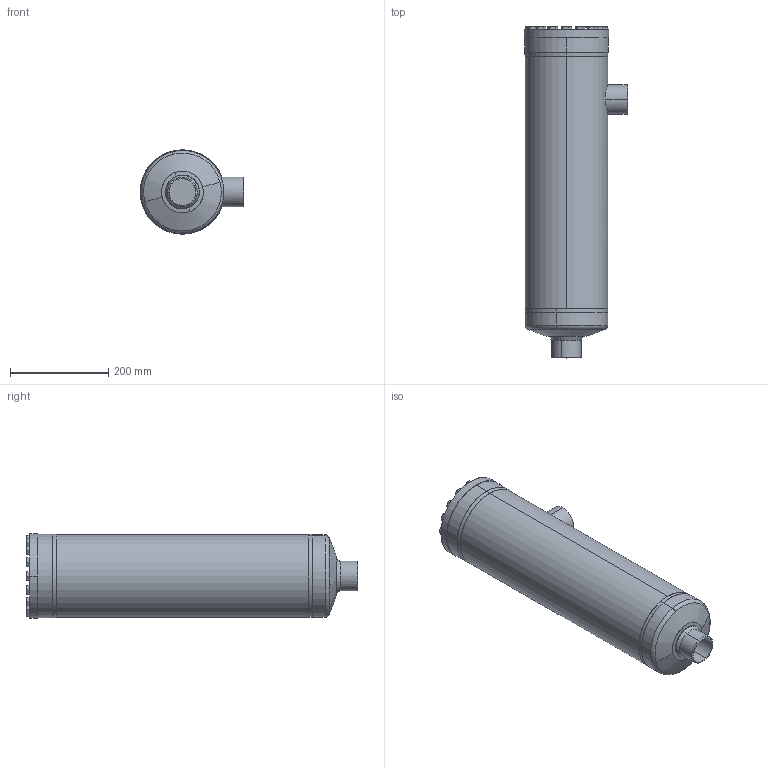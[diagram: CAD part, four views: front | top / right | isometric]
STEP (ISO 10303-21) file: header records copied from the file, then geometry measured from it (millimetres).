
FILE_DESCRIPTION (( 'STEP AP214' ), '1' );
FILE_NAME ('FT56700D15-DN50-7-3_PS40.STEP', '2010-09-13T08:32:36', ( 'Eckhard Grams' ), ( 'AWP Kälte Klima Armaturen GmbH' ), 'SwSTEP 2.0', 'SolidWorks 2002296', '' );
FILE_SCHEMA (( 'AUTOMOTIVE_DESIGN' ));
Length unit declared in the file: millimetre
Products named in the file (14): FT56700D15-DN50-7-3_PS40; Geh-kpl-FT-DN50-7-3_PS40_Standard; Gehäuse-FT-DN50-80_PS40_50-3; Kopfstück-FT-DN50-80_PS40_Standard; FT Boden-Führungsrohr DN50_(50-80)_PS25_Standard; bead-Bo-Fü-50-65_Standard; Boden-FT-DN20-80_DN 50-3 bis 65 PN25; Führungsrohr-FT-DN20-50_DN 50; Rohrstutzen-FT-DN20-80_DN 50 (50-80); bead50-Geh-Ko7_Standard; bead50-Geh-Bo5_Standard; FT Deckel-Schrauben-DN50-80_PS40_Standard; Deckel56700E17-DN50-80_PS40_Standard; Sechskantschraube-DIN933_M12x 30
Assembly tree (28 placements, depth 4):
  FT56700D15-DN50-7-3_PS40
    Geh-kpl-FT-DN50-7-3_PS40_Standard
      Rohrstutzen-FT-DN20-80_DN 50 (50-80)
      bead50-Geh-Bo5_Standard
      Gehäuse-FT-DN50-80_PS40_50-3
      FT Boden-Führungsrohr DN50_(50-80)_PS25_Standard
        Führungsrohr-FT-DN20-50_DN 50
        bead-Bo-Fü-50-65_Standard
        Boden-FT-DN20-80_DN 50-3 bis 65 PN25
      Kopfstück-FT-DN50-80_PS40_Standard
      bead50-Geh-Ko7_Standard
    FT Deckel-Schrauben-DN50-80_PS40_Standard
      Sechskantschraube-DIN933_M12x 30  x16
      Deckel56700E17-DN50-80_PS40_Standard
Bounding box: 211 x 675.4 x 172 mm (x, y, z)
Volume: 2828441.3 mm3; surface area: 858149.6 mm2
Topology: 25 solids, 25 shells, 659 faces, 1430 edges, 836 vertices
Faces by surface type: cone 298, plane 176, cylinder 163, bspline 12, torus 6, sphere 4
Entity records: 12942 total; most frequent: CARTESIAN_POINT 5733, DIRECTION 1482, ORIENTED_EDGE 1236, AXIS2_PLACEMENT_3D 634, EDGE_CURVE 618, VERTEX_POINT 386, EDGE_LOOP 366, CIRCLE 328
